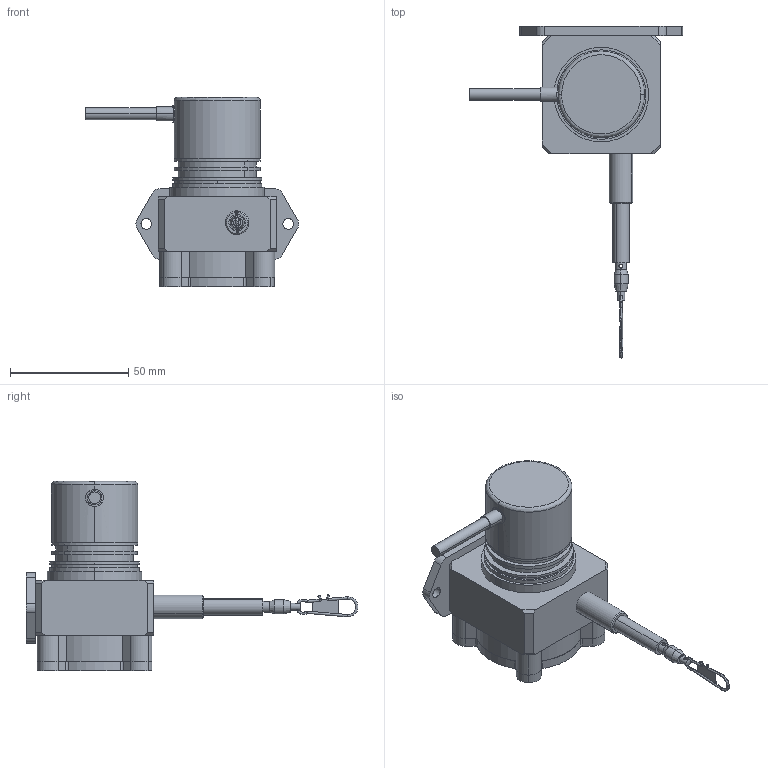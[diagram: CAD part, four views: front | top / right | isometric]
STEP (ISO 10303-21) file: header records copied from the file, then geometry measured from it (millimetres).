
FILE_DESCRIPTION (( 'STEP AP214' ), '1' );
FILE_NAME ('D8.6A1.0050.3642.XXXX.STEP', '2009-04-01T08:17:06', ( 'admin' ), ( 'Fritz Kübler GmbH' ), 'SwSTEP 2.0', 'SolidWorks 2008', '' );
FILE_SCHEMA (( 'AUTOMOTIVE_DESIGN' ));
Length unit declared in the file: millimetre
Products named in the file (1): D8.6A1.0050.3642.XXXX
Bounding box: 90.12 x 140.32 x 80.05 mm (x, y, z)
Volume: 82233 mm3; surface area: 46116.7 mm2
Topology: 11 solids, 11 shells, 368 faces, 918 edges, 568 vertices
Faces by surface type: cylinder 203, plane 108, cone 43, bspline 14
Entity records: 16939 total; most frequent: CARTESIAN_POINT 3925, DIRECTION 1924, ORIENTED_EDGE 1768, EDGE_CURVE 884, AXIS2_PLACEMENT_3D 761, VERTEX_POINT 568, EDGE_LOOP 450, CIRCLE 406
